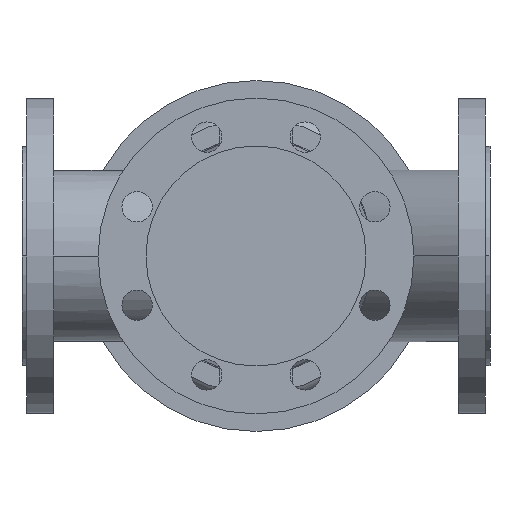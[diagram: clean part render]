
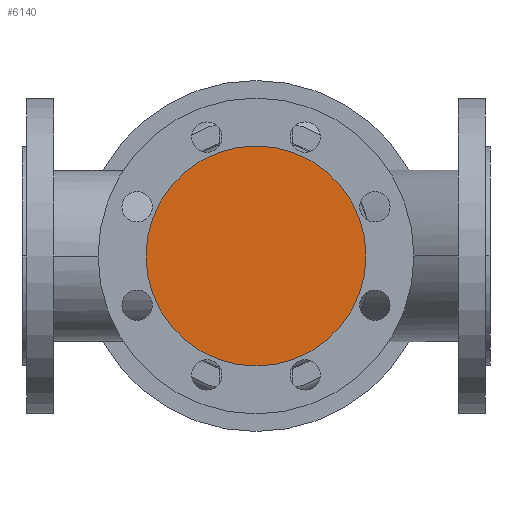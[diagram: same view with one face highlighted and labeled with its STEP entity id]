
A CAD part, front view. The second image highlights one B-rep face of the part: STEP entity #6140.
In plain terms, the highlighted planar face has unit normal (0, -1, 0).
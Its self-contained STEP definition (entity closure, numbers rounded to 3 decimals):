
#5330=CARTESIAN_POINT('',(106.,-200.,0.));
#5340=VERTEX_POINT('',#5330);
#5500=CARTESIAN_POINT('',(294.,-200.,0.));
#5510=VERTEX_POINT('',#5500);
#5540=CARTESIAN_POINT('',(200.,-200.,0.));
#5550=DIRECTION('',(0.,1.,0.));
#5560=DIRECTION('',(1.,0.,0.));
#5570=AXIS2_PLACEMENT_3D('',#5540,#5550,#5560);
#5580=CIRCLE('',#5570,94.);
#5590=EDGE_CURVE('',#5340,#5510,#5580,.T.);
#6040=CARTESIAN_POINT('',(247.,-200.,0.));
#6050=DIRECTION('',(0.,-1.,0.));
#6060=DIRECTION('',(-1.,0.,0.));
#6070=AXIS2_PLACEMENT_3D('',#6040,#6050,#6060);
#6080=PLANE('',#6070);
#6090=EDGE_CURVE('',#5510,#5340,#5580,.T.);
#6100=ORIENTED_EDGE('',*,*,#6090,.F.);
#6110=ORIENTED_EDGE('',*,*,#5590,.F.);
#6120=EDGE_LOOP('',(#6110,#6100));
#6130=FACE_OUTER_BOUND('',#6120,.T.);
#6140=ADVANCED_FACE('',(#6130),#6080,.T.);
